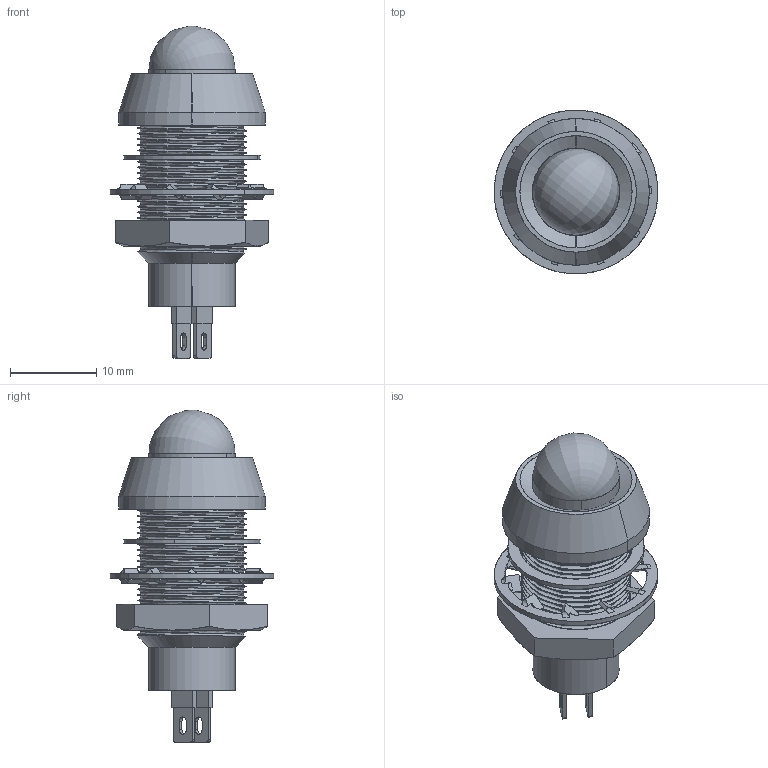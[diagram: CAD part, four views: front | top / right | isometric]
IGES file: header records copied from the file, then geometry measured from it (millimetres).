
Start section: SolidWorks IGES file using analytic representation for surfaces
Global section: file name: G:\Marl\DESIGN\Paul Robson\STEP-IGES FILES\514 Series\514 Series.IGS; native system: SolidWorks 2016; preprocessor: SolidWorks 2016; author: Paulr; date: 160804.141815; units: millimetre
Bounding box: 19 x 19 x 38.49 mm (x, y, z)
Surface area: 3922.5 mm2 (no closed solid volume)
Topology: 0 solids, 0 shells, 308 faces, 4031 edges, 4030 vertices
Faces by surface type: bspline 176, revolution 132
